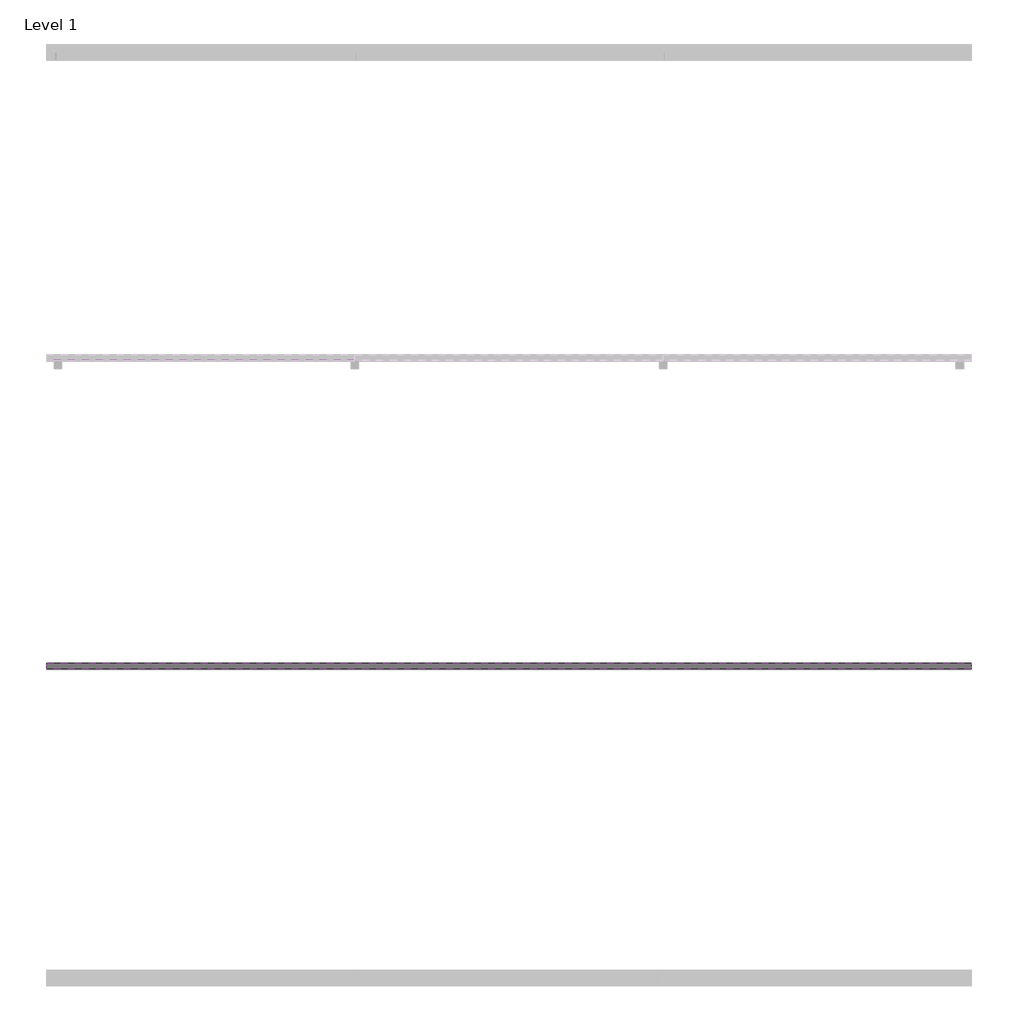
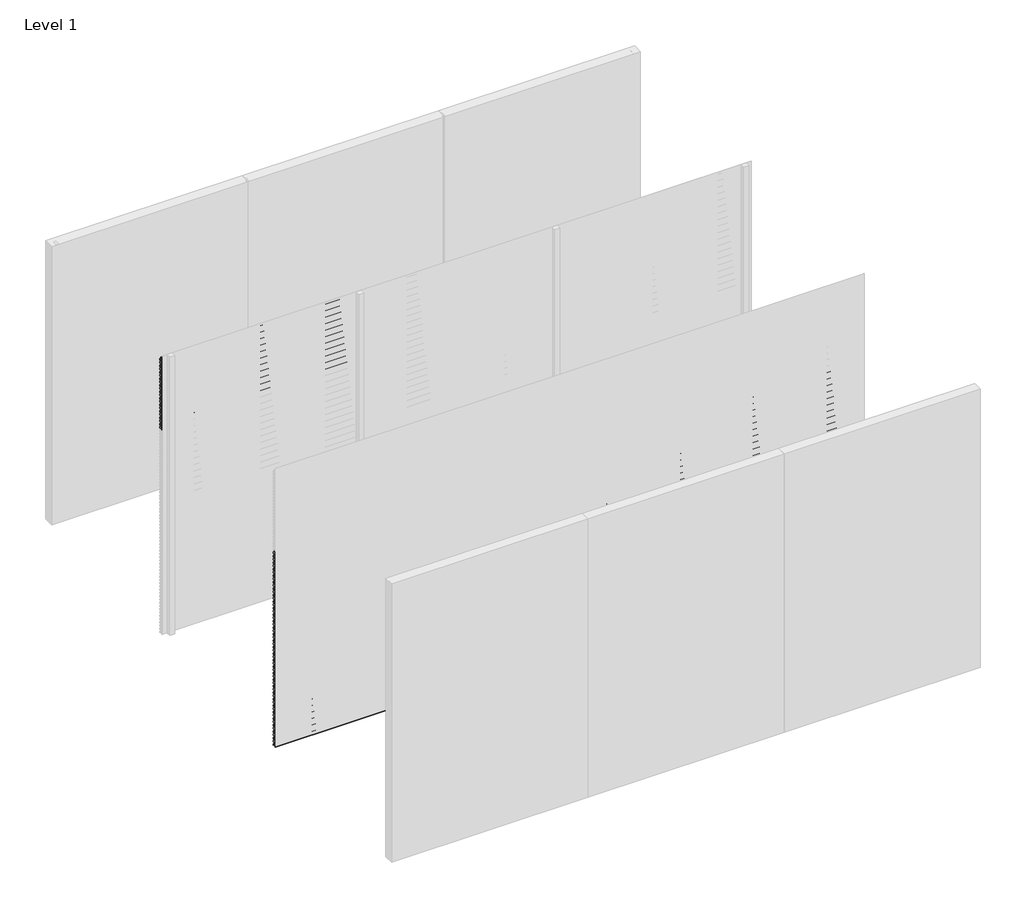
# One storey, part 6 of 17: 82 proxies.
"""IFC4 building model written with IfcOpenShell, lengths in millimetres."""

from ifc_helpers import new_model, si_unit, frame, origin, place, context, project, spatial, polyline, outline, extrude, element, save

model = new_model("IFC4")

# Units and contexts
model_context = context("Model", 3, world=origin())
ifc_project = project(units=[si_unit("LENGTHUNIT", "METRE", prefix="MILLI")], contexts=[model_context])

# Site, building, storey
site = spatial("IfcSite", under=ifc_project)
building = spatial("IfcBuilding", under=site)
storey = spatial("IfcBuildingStorey", under=building, Name="Level 1", Elevation=0.0)

# Proxies
placement = place(None, origin())
element("IfcBuildingElementProxy", 1, Name="Wall Sweeps", at=placement, inside=storey, context=model_context, shape_type="SweptSolid", body=[
    extrude(outline(polyline([(-11961.0, 2951.5), (-11961.0, 2936.5), (-11979.0, 2948.6411533), (-11997.0, 2936.5), (-11997.0, 2951.5), (-11980.0, 2962.9666448), (-11980.0, 2975.0), (-11978.0, 2975.0), (-11978.0, 2962.9666448), (-11961.0, 2951.5)])), frame((0.0, 0.0, 0.0), z_axis=(1.0, 0.0, 0.0), x_axis=(0.0, 1.0, 0.0)), (0.0, 0.0, 1.0), 2000.0),
])
element("IfcBuildingElementProxy", 2, Name="Wall Sweeps", at=placement, inside=storey, context=model_context, shape_type="SweptSolid", body=[
    extrude(outline(polyline([(-11961.0, 2916.5), (-11961.0, 2901.5), (-11979.0, 2913.6411533), (-11997.0, 2901.5), (-11997.0, 2916.5), (-11980.0, 2927.9666448), (-11980.0, 2940.0), (-11978.0, 2940.0), (-11978.0, 2927.9666448), (-11961.0, 2916.5)])), frame((0.0, 0.0, 0.0), z_axis=(1.0, 0.0, 0.0), x_axis=(0.0, 1.0, 0.0)), (0.0, 0.0, 1.0), 2000.0),
])
element("IfcBuildingElementProxy", 3, Name="Wall Sweeps", at=placement, inside=storey, context=model_context, shape_type="SweptSolid", body=[
    extrude(outline(polyline([(-11961.0, 2881.5), (-11961.0, 2866.5), (-11979.0, 2878.6411533), (-11997.0, 2866.5), (-11997.0, 2881.5), (-11980.0, 2892.9666448), (-11980.0, 2905.0), (-11978.0, 2905.0), (-11978.0, 2892.9666448), (-11961.0, 2881.5)])), frame((0.0, 0.0, 0.0), z_axis=(1.0, 0.0, 0.0), x_axis=(0.0, 1.0, 0.0)), (0.0, 0.0, 1.0), 2000.0),
])
element("IfcBuildingElementProxy", 4, Name="Wall Sweeps", at=placement, inside=storey, context=model_context, shape_type="SweptSolid", body=[
    extrude(outline(polyline([(-11961.0, 2846.5), (-11961.0, 2831.5), (-11979.0, 2843.6411533), (-11997.0, 2831.5), (-11997.0, 2846.5), (-11980.0, 2857.9666448), (-11980.0, 2870.0), (-11978.0, 2870.0), (-11978.0, 2857.9666448), (-11961.0, 2846.5)])), frame((0.0, 0.0, 0.0), z_axis=(1.0, 0.0, 0.0), x_axis=(0.0, 1.0, 0.0)), (0.0, 0.0, 1.0), 2000.0),
])
element("IfcBuildingElementProxy", 5, Name="Wall Sweeps", at=placement, inside=storey, context=model_context, shape_type="SweptSolid", body=[
    extrude(outline(polyline([(-11961.0, 2811.5), (-11961.0, 2796.5), (-11979.0, 2808.6411533), (-11997.0, 2796.5), (-11997.0, 2811.5), (-11980.0, 2822.9666448), (-11980.0, 2835.0), (-11978.0, 2835.0), (-11978.0, 2822.9666448), (-11961.0, 2811.5)])), frame((0.0, 0.0, 0.0), z_axis=(1.0, 0.0, 0.0), x_axis=(0.0, 1.0, 0.0)), (0.0, 0.0, 1.0), 2000.0),
])
element("IfcBuildingElementProxy", 6, Name="Wall Sweeps", at=placement, inside=storey, context=model_context, shape_type="SweptSolid", body=[
    extrude(outline(polyline([(-11961.0, 2776.5), (-11961.0, 2761.5), (-11979.0, 2773.6411533), (-11997.0, 2761.5), (-11997.0, 2776.5), (-11980.0, 2787.9666448), (-11980.0, 2800.0), (-11978.0, 2800.0), (-11978.0, 2787.9666448), (-11961.0, 2776.5)])), frame((0.0, 0.0, 0.0), z_axis=(1.0, 0.0, 0.0), x_axis=(0.0, 1.0, 0.0)), (0.0, 0.0, 1.0), 2000.0),
])
element("IfcBuildingElementProxy", 7, Name="Wall Sweeps", at=placement, inside=storey, context=model_context, shape_type="SweptSolid", body=[
    extrude(outline(polyline([(-11961.0, 2741.5), (-11961.0, 2726.5), (-11979.0, 2738.6411533), (-11997.0, 2726.5), (-11997.0, 2741.5), (-11980.0, 2752.9666448), (-11980.0, 2765.0), (-11978.0, 2765.0), (-11978.0, 2752.9666448), (-11961.0, 2741.5)])), frame((0.0, 0.0, 0.0), z_axis=(1.0, 0.0, 0.0), x_axis=(0.0, 1.0, 0.0)), (0.0, 0.0, 1.0), 2000.0),
])
element("IfcBuildingElementProxy", 8, Name="Wall Sweeps", at=placement, inside=storey, context=model_context, shape_type="SweptSolid", body=[
    extrude(outline(polyline([(-11961.0, 2706.5), (-11961.0, 2691.5), (-11979.0, 2703.6411533), (-11997.0, 2691.5), (-11997.0, 2706.5), (-11980.0, 2717.9666448), (-11980.0, 2730.0), (-11978.0, 2730.0), (-11978.0, 2717.9666448), (-11961.0, 2706.5)])), frame((0.0, 0.0, 0.0), z_axis=(1.0, 0.0, 0.0), x_axis=(0.0, 1.0, 0.0)), (0.0, 0.0, 1.0), 2000.0),
])
element("IfcBuildingElementProxy", 9, Name="Wall Sweeps", at=placement, inside=storey, context=model_context, shape_type="SweptSolid", body=[
    extrude(outline(polyline([(-11961.0, 2671.5), (-11961.0, 2656.5), (-11979.0, 2668.6411533), (-11997.0, 2656.5), (-11997.0, 2671.5), (-11980.0, 2682.9666448), (-11980.0, 2695.0), (-11978.0, 2695.0), (-11978.0, 2682.9666448), (-11961.0, 2671.5)])), frame((0.0, 0.0, 0.0), z_axis=(1.0, 0.0, 0.0), x_axis=(0.0, 1.0, 0.0)), (0.0, 0.0, 1.0), 2000.0),
])
element("IfcBuildingElementProxy", 10, Name="Wall Sweeps", at=placement, inside=storey, context=model_context, shape_type="SweptSolid", body=[
    extrude(outline(polyline([(-11961.0, 2636.5), (-11961.0, 2621.5), (-11979.0, 2633.6411533), (-11997.0, 2621.5), (-11997.0, 2636.5), (-11980.0, 2647.9666448), (-11980.0, 2660.0), (-11978.0, 2660.0), (-11978.0, 2647.9666448), (-11961.0, 2636.5)])), frame((0.0, 0.0, 0.0), z_axis=(1.0, 0.0, 0.0), x_axis=(0.0, 1.0, 0.0)), (0.0, 0.0, 1.0), 2000.0),
])
element("IfcBuildingElementProxy", 11, Name="Wall Sweeps", at=placement, inside=storey, context=model_context, shape_type="SweptSolid", body=[
    extrude(outline(polyline([(-11961.0, 2601.5), (-11961.0, 2586.5), (-11979.0, 2598.6411533), (-11997.0, 2586.5), (-11997.0, 2601.5), (-11980.0, 2612.9666448), (-11980.0, 2625.0), (-11978.0, 2625.0), (-11978.0, 2612.9666448), (-11961.0, 2601.5)])), frame((0.0, 0.0, 0.0), z_axis=(1.0, 0.0, 0.0), x_axis=(0.0, 1.0, 0.0)), (0.0, 0.0, 1.0), 2000.0),
])
element("IfcBuildingElementProxy", 12, Name="Wall Sweeps", at=placement, inside=storey, context=model_context, shape_type="SweptSolid", body=[
    extrude(outline(polyline([(-11961.0, 2566.5), (-11961.0, 2551.5), (-11979.0, 2563.6411533), (-11997.0, 2551.5), (-11997.0, 2566.5), (-11980.0, 2577.9666448), (-11980.0, 2590.0), (-11978.0, 2590.0), (-11978.0, 2577.9666448), (-11961.0, 2566.5)])), frame((0.0, 0.0, 0.0), z_axis=(1.0, 0.0, 0.0), x_axis=(0.0, 1.0, 0.0)), (0.0, 0.0, 1.0), 2000.0),
])
element("IfcBuildingElementProxy", 13, Name="Wall Sweeps", at=placement, inside=storey, context=model_context, shape_type="SweptSolid", body=[
    extrude(outline(polyline([(-11961.0, 2531.5), (-11961.0, 2516.5), (-11979.0, 2528.6411533), (-11997.0, 2516.5), (-11997.0, 2531.5), (-11980.0, 2542.9666448), (-11980.0, 2555.0), (-11978.0, 2555.0), (-11978.0, 2542.9666448), (-11961.0, 2531.5)])), frame((0.0, 0.0, 0.0), z_axis=(1.0, 0.0, 0.0), x_axis=(0.0, 1.0, 0.0)), (0.0, 0.0, 1.0), 2000.0),
])
element("IfcBuildingElementProxy", 14, Name="Wall Sweeps", at=placement, inside=storey, context=model_context, shape_type="SweptSolid", body=[
    extrude(outline(polyline([(-11961.0, 2496.5), (-11961.0, 2481.5), (-11979.0, 2493.6411533), (-11997.0, 2481.5), (-11997.0, 2496.5), (-11980.0, 2507.9666448), (-11980.0, 2520.0), (-11978.0, 2520.0), (-11978.0, 2507.9666448), (-11961.0, 2496.5)])), frame((0.0, 0.0, 0.0), z_axis=(1.0, 0.0, 0.0), x_axis=(0.0, 1.0, 0.0)), (0.0, 0.0, 1.0), 2000.0),
])
element("IfcBuildingElementProxy", 15, Name="Wall Sweeps", at=placement, inside=storey, context=model_context, shape_type="SweptSolid", body=[
    extrude(outline(polyline([(-11961.0, 2461.5), (-11961.0, 2446.5), (-11979.0, 2458.6411533), (-11997.0, 2446.5), (-11997.0, 2461.5), (-11980.0, 2472.9666448), (-11980.0, 2485.0), (-11978.0, 2485.0), (-11978.0, 2472.9666448), (-11961.0, 2461.5)])), frame((0.0, 0.0, 0.0), z_axis=(1.0, 0.0, 0.0), x_axis=(0.0, 1.0, 0.0)), (0.0, 0.0, 1.0), 2000.0),
])
element("IfcBuildingElementProxy", 16, Name="Wall Sweeps", at=placement, inside=storey, context=model_context, shape_type="SweptSolid", body=[
    extrude(outline(polyline([(-11961.0, 2426.5), (-11961.0, 2411.5), (-11979.0, 2423.6411533), (-11997.0, 2411.5), (-11997.0, 2426.5), (-11980.0, 2437.9666448), (-11980.0, 2450.0), (-11978.0, 2450.0), (-11978.0, 2437.9666448), (-11961.0, 2426.5)])), frame((0.0, 0.0, 0.0), z_axis=(1.0, 0.0, 0.0), x_axis=(0.0, 1.0, 0.0)), (0.0, 0.0, 1.0), 2000.0),
])
element("IfcBuildingElementProxy", 17, Name="Wall Sweeps", at=placement, inside=storey, context=model_context, shape_type="SweptSolid", body=[
    extrude(outline(polyline([(-11961.0, 2391.5), (-11961.0, 2376.5), (-11979.0, 2388.6411533), (-11997.0, 2376.5), (-11997.0, 2391.5), (-11980.0, 2402.9666448), (-11980.0, 2415.0), (-11978.0, 2415.0), (-11978.0, 2402.9666448), (-11961.0, 2391.5)])), frame((0.0, 0.0, 0.0), z_axis=(1.0, 0.0, 0.0), x_axis=(0.0, 1.0, 0.0)), (0.0, 0.0, 1.0), 2000.0),
])
element("IfcBuildingElementProxy", 18, Name="Wall Sweeps", at=placement, inside=storey, context=model_context, shape_type="SweptSolid", body=[
    extrude(outline(polyline([(-11961.0, 2356.5), (-11961.0, 2341.5), (-11979.0, 2353.6411533), (-11997.0, 2341.5), (-11997.0, 2356.5), (-11980.0, 2367.9666448), (-11980.0, 2380.0), (-11978.0, 2380.0), (-11978.0, 2367.9666448), (-11961.0, 2356.5)])), frame((0.0, 0.0, 0.0), z_axis=(1.0, 0.0, 0.0), x_axis=(0.0, 1.0, 0.0)), (0.0, 0.0, 1.0), 2000.0),
])
element("IfcBuildingElementProxy", 19, Name="Wall Sweeps", at=placement, inside=storey, context=model_context, shape_type="SweptSolid", body=[
    extrude(outline(polyline([(-11961.0, 2321.5), (-11961.0, 2306.5), (-11979.0, 2318.6411533), (-11997.0, 2306.5), (-11997.0, 2321.5), (-11980.0, 2332.9666448), (-11980.0, 2345.0), (-11978.0, 2345.0), (-11978.0, 2332.9666448), (-11961.0, 2321.5)])), frame((0.0, 0.0, 0.0), z_axis=(1.0, 0.0, 0.0), x_axis=(0.0, 1.0, 0.0)), (0.0, 0.0, 1.0), 2000.0),
])
element("IfcBuildingElementProxy", 20, Name="Wall Sweeps", at=placement, inside=storey, context=model_context, shape_type="SweptSolid", body=[
    extrude(outline(polyline([(-11961.0, 2286.5), (-11961.0, 2271.5), (-11979.0, 2283.6411533), (-11997.0, 2271.5), (-11997.0, 2286.5), (-11980.0, 2297.9666448), (-11980.0, 2310.0), (-11978.0, 2310.0), (-11978.0, 2297.9666448), (-11961.0, 2286.5)])), frame((0.0, 0.0, 0.0), z_axis=(1.0, 0.0, 0.0), x_axis=(0.0, 1.0, 0.0)), (0.0, 0.0, 1.0), 2000.0),
])
element("IfcBuildingElementProxy", 21, Name="Wall Sweeps", at=placement, inside=storey, context=model_context, shape_type="SweptSolid", body=[
    extrude(outline(polyline([(-11961.0, 2251.5), (-11961.0, 2236.5), (-11979.0, 2248.6411533), (-11997.0, 2236.5), (-11997.0, 2251.5), (-11980.0, 2262.9666448), (-11980.0, 2275.0), (-11978.0, 2275.0), (-11978.0, 2262.9666448), (-11961.0, 2251.5)])), frame((0.0, 0.0, 0.0), z_axis=(1.0, 0.0, 0.0), x_axis=(0.0, 1.0, 0.0)), (0.0, 0.0, 1.0), 2000.0),
])
element("IfcBuildingElementProxy", 22, Name="Wall Sweeps", at=placement, inside=storey, context=model_context, shape_type="SweptSolid", body=[
    extrude(outline(polyline([(-11961.0, 2216.5), (-11961.0, 2201.5), (-11979.0, 2213.6411533), (-11997.0, 2201.5), (-11997.0, 2216.5), (-11980.0, 2227.9666448), (-11980.0, 2240.0), (-11978.0, 2240.0), (-11978.0, 2227.9666448), (-11961.0, 2216.5)])), frame((0.0, 0.0, 0.0), z_axis=(1.0, 0.0, 0.0), x_axis=(0.0, 1.0, 0.0)), (0.0, 0.0, 1.0), 2000.0),
])
element("IfcBuildingElementProxy", 23, Name="Wall Sweeps", at=placement, inside=storey, context=model_context, shape_type="SweptSolid", body=[
    extrude(outline(polyline([(-13961.0, 2076.5), (-13961.0, 2061.5), (-13979.0, 2073.6411533), (-13997.0, 2061.5), (-13997.0, 2076.5), (-13980.0, 2087.9666448), (-13980.0, 2100.0), (-13978.0, 2100.0), (-13978.0, 2087.9666448), (-13961.0, 2076.5)])), frame((0.0, 0.0, 0.0), z_axis=(1.0, 0.0, 0.0), x_axis=(0.0, 1.0, 0.0)), (0.0, 0.0, 1.0), 6000.0),
])
element("IfcBuildingElementProxy", 24, Name="Wall Sweeps", at=placement, inside=storey, context=model_context, shape_type="SweptSolid", body=[
    extrude(outline(polyline([(-13961.0, 2041.5), (-13961.0, 2026.5), (-13979.0, 2038.6411533), (-13997.0, 2026.5), (-13997.0, 2041.5), (-13980.0, 2052.9666448), (-13980.0, 2065.0), (-13978.0, 2065.0), (-13978.0, 2052.9666448), (-13961.0, 2041.5)])), frame((0.0, 0.0, 0.0), z_axis=(1.0, 0.0, 0.0), x_axis=(0.0, 1.0, 0.0)), (0.0, 0.0, 1.0), 6000.0),
])
element("IfcBuildingElementProxy", 25, Name="Wall Sweeps", at=placement, inside=storey, context=model_context, shape_type="SweptSolid", body=[
    extrude(outline(polyline([(-13961.0, 2006.5), (-13961.0, 1991.5), (-13979.0, 2003.6411533), (-13997.0, 1991.5), (-13997.0, 2006.5), (-13980.0, 2017.9666448), (-13980.0, 2030.0), (-13978.0, 2030.0), (-13978.0, 2017.9666448), (-13961.0, 2006.5)])), frame((0.0, 0.0, 0.0), z_axis=(1.0, 0.0, 0.0), x_axis=(0.0, 1.0, 0.0)), (0.0, 0.0, 1.0), 6000.0),
])
element("IfcBuildingElementProxy", 26, Name="Wall Sweeps", at=placement, inside=storey, context=model_context, shape_type="SweptSolid", body=[
    extrude(outline(polyline([(-13961.0, 1971.5), (-13961.0, 1956.5), (-13979.0, 1968.6411533), (-13997.0, 1956.5), (-13997.0, 1971.5), (-13980.0, 1982.9666448), (-13980.0, 1995.0), (-13978.0, 1995.0), (-13978.0, 1982.9666448), (-13961.0, 1971.5)])), frame((0.0, 0.0, 0.0), z_axis=(1.0, 0.0, 0.0), x_axis=(0.0, 1.0, 0.0)), (0.0, 0.0, 1.0), 6000.0),
])
element("IfcBuildingElementProxy", 27, Name="Wall Sweeps", at=placement, inside=storey, context=model_context, shape_type="SweptSolid", body=[
    extrude(outline(polyline([(-13961.0, 1936.5), (-13961.0, 1921.5), (-13979.0, 1933.6411533), (-13997.0, 1921.5), (-13997.0, 1936.5), (-13980.0, 1947.9666448), (-13980.0, 1960.0), (-13978.0, 1960.0), (-13978.0, 1947.9666448), (-13961.0, 1936.5)])), frame((0.0, 0.0, 0.0), z_axis=(1.0, 0.0, 0.0), x_axis=(0.0, 1.0, 0.0)), (0.0, 0.0, 1.0), 6000.0),
])
element("IfcBuildingElementProxy", 28, Name="Wall Sweeps", at=placement, inside=storey, context=model_context, shape_type="SweptSolid", body=[
    extrude(outline(polyline([(-13961.0, 1901.5), (-13961.0, 1886.5), (-13979.0, 1898.6411533), (-13997.0, 1886.5), (-13997.0, 1901.5), (-13980.0, 1912.9666448), (-13980.0, 1925.0), (-13978.0, 1925.0), (-13978.0, 1912.9666448), (-13961.0, 1901.5)])), frame((0.0, 0.0, 0.0), z_axis=(1.0, 0.0, 0.0), x_axis=(0.0, 1.0, 0.0)), (0.0, 0.0, 1.0), 6000.0),
])
element("IfcBuildingElementProxy", 29, Name="Wall Sweeps", at=placement, inside=storey, context=model_context, shape_type="SweptSolid", body=[
    extrude(outline(polyline([(-13961.0, 1866.5), (-13961.0, 1851.5), (-13979.0, 1863.6411533), (-13997.0, 1851.5), (-13997.0, 1866.5), (-13980.0, 1877.9666448), (-13980.0, 1890.0), (-13978.0, 1890.0), (-13978.0, 1877.9666448), (-13961.0, 1866.5)])), frame((0.0, 0.0, 0.0), z_axis=(1.0, 0.0, 0.0), x_axis=(0.0, 1.0, 0.0)), (0.0, 0.0, 1.0), 6000.0),
])
element("IfcBuildingElementProxy", 30, Name="Wall Sweeps", at=placement, inside=storey, context=model_context, shape_type="SweptSolid", body=[
    extrude(outline(polyline([(-13961.0, 1831.5), (-13961.0, 1816.5), (-13979.0, 1828.6411533), (-13997.0, 1816.5), (-13997.0, 1831.5), (-13980.0, 1842.9666448), (-13980.0, 1855.0), (-13978.0, 1855.0), (-13978.0, 1842.9666448), (-13961.0, 1831.5)])), frame((0.0, 0.0, 0.0), z_axis=(1.0, 0.0, 0.0), x_axis=(0.0, 1.0, 0.0)), (0.0, 0.0, 1.0), 6000.0),
])
element("IfcBuildingElementProxy", 31, Name="Wall Sweeps", at=placement, inside=storey, context=model_context, shape_type="SweptSolid", body=[
    extrude(outline(polyline([(-13961.0, 1796.5), (-13961.0, 1781.5), (-13979.0, 1793.6411533), (-13997.0, 1781.5), (-13997.0, 1796.5), (-13980.0, 1807.9666448), (-13980.0, 1820.0), (-13978.0, 1820.0), (-13978.0, 1807.9666448), (-13961.0, 1796.5)])), frame((0.0, 0.0, 0.0), z_axis=(1.0, 0.0, 0.0), x_axis=(0.0, 1.0, 0.0)), (0.0, 0.0, 1.0), 6000.0),
])
element("IfcBuildingElementProxy", 32, Name="Wall Sweeps", at=placement, inside=storey, context=model_context, shape_type="SweptSolid", body=[
    extrude(outline(polyline([(-13961.0, 1761.5), (-13961.0, 1746.5), (-13979.0, 1758.6411533), (-13997.0, 1746.5), (-13997.0, 1761.5), (-13980.0, 1772.9666448), (-13980.0, 1785.0), (-13978.0, 1785.0), (-13978.0, 1772.9666448), (-13961.0, 1761.5)])), frame((0.0, 0.0, 0.0), z_axis=(1.0, 0.0, 0.0), x_axis=(0.0, 1.0, 0.0)), (0.0, 0.0, 1.0), 6000.0),
])
element("IfcBuildingElementProxy", 33, Name="Wall Sweeps", at=placement, inside=storey, context=model_context, shape_type="SweptSolid", body=[
    extrude(outline(polyline([(-13961.0, 1726.5), (-13961.0, 1711.5), (-13979.0, 1723.6411533), (-13997.0, 1711.5), (-13997.0, 1726.5), (-13980.0, 1737.9666448), (-13980.0, 1750.0), (-13978.0, 1750.0), (-13978.0, 1737.9666448), (-13961.0, 1726.5)])), frame((0.0, 0.0, 0.0), z_axis=(1.0, 0.0, 0.0), x_axis=(0.0, 1.0, 0.0)), (0.0, 0.0, 1.0), 6000.0),
])
element("IfcBuildingElementProxy", 34, Name="Wall Sweeps", at=placement, inside=storey, context=model_context, shape_type="SweptSolid", body=[
    extrude(outline(polyline([(-13961.0, 1691.5), (-13961.0, 1676.5), (-13979.0, 1688.6411533), (-13997.0, 1676.5), (-13997.0, 1691.5), (-13980.0, 1702.9666448), (-13980.0, 1715.0), (-13978.0, 1715.0), (-13978.0, 1702.9666448), (-13961.0, 1691.5)])), frame((0.0, 0.0, 0.0), z_axis=(1.0, 0.0, 0.0), x_axis=(0.0, 1.0, 0.0)), (0.0, 0.0, 1.0), 6000.0),
])
element("IfcBuildingElementProxy", 35, Name="Wall Sweeps", at=placement, inside=storey, context=model_context, shape_type="SweptSolid", body=[
    extrude(outline(polyline([(-13961.0, 1656.5), (-13961.0, 1641.5), (-13979.0, 1653.6411533), (-13997.0, 1641.5), (-13997.0, 1656.5), (-13980.0, 1667.9666448), (-13980.0, 1680.0), (-13978.0, 1680.0), (-13978.0, 1667.9666448), (-13961.0, 1656.5)])), frame((0.0, 0.0, 0.0), z_axis=(1.0, 0.0, 0.0), x_axis=(0.0, 1.0, 0.0)), (0.0, 0.0, 1.0), 6000.0),
])
element("IfcBuildingElementProxy", 36, Name="Wall Sweeps", at=placement, inside=storey, context=model_context, shape_type="SweptSolid", body=[
    extrude(outline(polyline([(-13961.0, 1621.5), (-13961.0, 1606.5), (-13979.0, 1618.6411533), (-13997.0, 1606.5), (-13997.0, 1621.5), (-13980.0, 1632.9666448), (-13980.0, 1645.0), (-13978.0, 1645.0), (-13978.0, 1632.9666448), (-13961.0, 1621.5)])), frame((0.0, 0.0, 0.0), z_axis=(1.0, 0.0, 0.0), x_axis=(0.0, 1.0, 0.0)), (0.0, 0.0, 1.0), 6000.0),
])
element("IfcBuildingElementProxy", 37, Name="Wall Sweeps", at=placement, inside=storey, context=model_context, shape_type="SweptSolid", body=[
    extrude(outline(polyline([(-13961.0, 1586.5), (-13961.0, 1571.5), (-13979.0, 1583.6411533), (-13997.0, 1571.5), (-13997.0, 1586.5), (-13980.0, 1597.9666448), (-13980.0, 1610.0), (-13978.0, 1610.0), (-13978.0, 1597.9666448), (-13961.0, 1586.5)])), frame((0.0, 0.0, 0.0), z_axis=(1.0, 0.0, 0.0), x_axis=(0.0, 1.0, 0.0)), (0.0, 0.0, 1.0), 6000.0),
])
element("IfcBuildingElementProxy", 38, Name="Wall Sweeps", at=placement, inside=storey, context=model_context, shape_type="SweptSolid", body=[
    extrude(outline(polyline([(-13961.0, 1551.5), (-13961.0, 1536.5), (-13979.0, 1548.6411533), (-13997.0, 1536.5), (-13997.0, 1551.5), (-13980.0, 1562.9666448), (-13980.0, 1575.0), (-13978.0, 1575.0), (-13978.0, 1562.9666448), (-13961.0, 1551.5)])), frame((0.0, 0.0, 0.0), z_axis=(1.0, 0.0, 0.0), x_axis=(0.0, 1.0, 0.0)), (0.0, 0.0, 1.0), 6000.0),
])
element("IfcBuildingElementProxy", 39, Name="Wall Sweeps", at=placement, inside=storey, context=model_context, shape_type="SweptSolid", body=[
    extrude(outline(polyline([(-13961.0, 1516.5), (-13961.0, 1501.5), (-13979.0, 1513.6411533), (-13997.0, 1501.5), (-13997.0, 1516.5), (-13980.0, 1527.9666448), (-13980.0, 1540.0), (-13978.0, 1540.0), (-13978.0, 1527.9666448), (-13961.0, 1516.5)])), frame((0.0, 0.0, 0.0), z_axis=(1.0, 0.0, 0.0), x_axis=(0.0, 1.0, 0.0)), (0.0, 0.0, 1.0), 6000.0),
])
element("IfcBuildingElementProxy", 40, Name="Wall Sweeps", at=placement, inside=storey, context=model_context, shape_type="SweptSolid", body=[
    extrude(outline(polyline([(-13961.0, 1481.5), (-13961.0, 1466.5), (-13979.0, 1478.6411533), (-13997.0, 1466.5), (-13997.0, 1481.5), (-13980.0, 1492.9666448), (-13980.0, 1505.0), (-13978.0, 1505.0), (-13978.0, 1492.9666448), (-13961.0, 1481.5)])), frame((0.0, 0.0, 0.0), z_axis=(1.0, 0.0, 0.0), x_axis=(0.0, 1.0, 0.0)), (0.0, 0.0, 1.0), 6000.0),
])
element("IfcBuildingElementProxy", 41, Name="Wall Sweeps", at=placement, inside=storey, context=model_context, shape_type="SweptSolid", body=[
    extrude(outline(polyline([(-13961.0, 1446.5), (-13961.0, 1431.5), (-13979.0, 1443.6411533), (-13997.0, 1431.5), (-13997.0, 1446.5), (-13980.0, 1457.9666448), (-13980.0, 1470.0), (-13978.0, 1470.0), (-13978.0, 1457.9666448), (-13961.0, 1446.5)])), frame((0.0, 0.0, 0.0), z_axis=(1.0, 0.0, 0.0), x_axis=(0.0, 1.0, 0.0)), (0.0, 0.0, 1.0), 6000.0),
])
element("IfcBuildingElementProxy", 42, Name="Wall Sweeps", at=placement, inside=storey, context=model_context, shape_type="SweptSolid", body=[
    extrude(outline(polyline([(-13961.0, 1411.5), (-13961.0, 1396.5), (-13979.0, 1408.6411533), (-13997.0, 1396.5), (-13997.0, 1411.5), (-13980.0, 1422.9666448), (-13980.0, 1435.0), (-13978.0, 1435.0), (-13978.0, 1422.9666448), (-13961.0, 1411.5)])), frame((0.0, 0.0, 0.0), z_axis=(1.0, 0.0, 0.0), x_axis=(0.0, 1.0, 0.0)), (0.0, 0.0, 1.0), 6000.0),
])
element("IfcBuildingElementProxy", 43, Name="Wall Sweeps", at=placement, inside=storey, context=model_context, shape_type="SweptSolid", body=[
    extrude(outline(polyline([(-13961.0, 1376.5), (-13961.0, 1361.5), (-13979.0, 1373.6411533), (-13997.0, 1361.5), (-13997.0, 1376.5), (-13980.0, 1387.9666448), (-13980.0, 1400.0), (-13978.0, 1400.0), (-13978.0, 1387.9666448), (-13961.0, 1376.5)])), frame((0.0, 0.0, 0.0), z_axis=(1.0, 0.0, 0.0), x_axis=(0.0, 1.0, 0.0)), (0.0, 0.0, 1.0), 6000.0),
])
element("IfcBuildingElementProxy", 44, Name="Wall Sweeps", at=placement, inside=storey, context=model_context, shape_type="SweptSolid", body=[
    extrude(outline(polyline([(-13961.0, 1341.5), (-13961.0, 1326.5), (-13979.0, 1338.6411533), (-13997.0, 1326.5), (-13997.0, 1341.5), (-13980.0, 1352.9666448), (-13980.0, 1365.0), (-13978.0, 1365.0), (-13978.0, 1352.9666448), (-13961.0, 1341.5)])), frame((0.0, 0.0, 0.0), z_axis=(1.0, 0.0, 0.0), x_axis=(0.0, 1.0, 0.0)), (0.0, 0.0, 1.0), 6000.0),
])
element("IfcBuildingElementProxy", 45, Name="Wall Sweeps", at=placement, inside=storey, context=model_context, shape_type="SweptSolid", body=[
    extrude(outline(polyline([(-13961.0, 1306.5), (-13961.0, 1291.5), (-13979.0, 1303.6411533), (-13997.0, 1291.5), (-13997.0, 1306.5), (-13980.0, 1317.9666448), (-13980.0, 1330.0), (-13978.0, 1330.0), (-13978.0, 1317.9666448), (-13961.0, 1306.5)])), frame((0.0, 0.0, 0.0), z_axis=(1.0, 0.0, 0.0), x_axis=(0.0, 1.0, 0.0)), (0.0, 0.0, 1.0), 6000.0),
])
element("IfcBuildingElementProxy", 46, Name="Wall Sweeps", at=placement, inside=storey, context=model_context, shape_type="SweptSolid", body=[
    extrude(outline(polyline([(-13961.0, 1271.5), (-13961.0, 1256.5), (-13979.0, 1268.6411533), (-13997.0, 1256.5), (-13997.0, 1271.5), (-13980.0, 1282.9666448), (-13980.0, 1295.0), (-13978.0, 1295.0), (-13978.0, 1282.9666448), (-13961.0, 1271.5)])), frame((0.0, 0.0, 0.0), z_axis=(1.0, 0.0, 0.0), x_axis=(0.0, 1.0, 0.0)), (0.0, 0.0, 1.0), 6000.0),
])
element("IfcBuildingElementProxy", 47, Name="Wall Sweeps", at=placement, inside=storey, context=model_context, shape_type="SweptSolid", body=[
    extrude(outline(polyline([(-13961.0, 1236.5), (-13961.0, 1221.5), (-13979.0, 1233.6411533), (-13997.0, 1221.5), (-13997.0, 1236.5), (-13980.0, 1247.9666448), (-13980.0, 1260.0), (-13978.0, 1260.0), (-13978.0, 1247.9666448), (-13961.0, 1236.5)])), frame((0.0, 0.0, 0.0), z_axis=(1.0, 0.0, 0.0), x_axis=(0.0, 1.0, 0.0)), (0.0, 0.0, 1.0), 6000.0),
])
element("IfcBuildingElementProxy", 48, Name="Wall Sweeps", at=placement, inside=storey, context=model_context, shape_type="SweptSolid", body=[
    extrude(outline(polyline([(-13961.0, 1201.5), (-13961.0, 1186.5), (-13979.0, 1198.6411533), (-13997.0, 1186.5), (-13997.0, 1201.5), (-13980.0, 1212.9666448), (-13980.0, 1225.0), (-13978.0, 1225.0), (-13978.0, 1212.9666448), (-13961.0, 1201.5)])), frame((0.0, 0.0, 0.0), z_axis=(1.0, 0.0, 0.0), x_axis=(0.0, 1.0, 0.0)), (0.0, 0.0, 1.0), 6000.0),
])
element("IfcBuildingElementProxy", 49, Name="Wall Sweeps", at=placement, inside=storey, context=model_context, shape_type="SweptSolid", body=[
    extrude(outline(polyline([(-13961.0, 1166.5), (-13961.0, 1151.5), (-13979.0, 1163.6411533), (-13997.0, 1151.5), (-13997.0, 1166.5), (-13980.0, 1177.9666448), (-13980.0, 1190.0), (-13978.0, 1190.0), (-13978.0, 1177.9666448), (-13961.0, 1166.5)])), frame((0.0, 0.0, 0.0), z_axis=(1.0, 0.0, 0.0), x_axis=(0.0, 1.0, 0.0)), (0.0, 0.0, 1.0), 6000.0),
])
element("IfcBuildingElementProxy", 50, Name="Wall Sweeps", at=placement, inside=storey, context=model_context, shape_type="SweptSolid", body=[
    extrude(outline(polyline([(-13961.0, 1131.5), (-13961.0, 1116.5), (-13979.0, 1128.6411533), (-13997.0, 1116.5), (-13997.0, 1131.5), (-13980.0, 1142.9666448), (-13980.0, 1155.0), (-13978.0, 1155.0), (-13978.0, 1142.9666448), (-13961.0, 1131.5)])), frame((0.0, 0.0, 0.0), z_axis=(1.0, 0.0, 0.0), x_axis=(0.0, 1.0, 0.0)), (0.0, 0.0, 1.0), 6000.0),
])
element("IfcBuildingElementProxy", 51, Name="Wall Sweeps", at=placement, inside=storey, context=model_context, shape_type="SweptSolid", body=[
    extrude(outline(polyline([(-13961.0, 1096.5), (-13961.0, 1081.5), (-13979.0, 1093.6411533), (-13997.0, 1081.5), (-13997.0, 1096.5), (-13980.0, 1107.9666448), (-13980.0, 1120.0), (-13978.0, 1120.0), (-13978.0, 1107.9666448), (-13961.0, 1096.5)])), frame((0.0, 0.0, 0.0), z_axis=(1.0, 0.0, 0.0), x_axis=(0.0, 1.0, 0.0)), (0.0, 0.0, 1.0), 6000.0),
])
element("IfcBuildingElementProxy", 52, Name="Wall Sweeps", at=placement, inside=storey, context=model_context, shape_type="SweptSolid", body=[
    extrude(outline(polyline([(-13961.0, 1061.5), (-13961.0, 1046.5), (-13979.0, 1058.6411533), (-13997.0, 1046.5), (-13997.0, 1061.5), (-13980.0, 1072.9666448), (-13980.0, 1085.0), (-13978.0, 1085.0), (-13978.0, 1072.9666448), (-13961.0, 1061.5)])), frame((0.0, 0.0, 0.0), z_axis=(1.0, 0.0, 0.0), x_axis=(0.0, 1.0, 0.0)), (0.0, 0.0, 1.0), 6000.0),
])
element("IfcBuildingElementProxy", 53, Name="Wall Sweeps", at=placement, inside=storey, context=model_context, shape_type="SweptSolid", body=[
    extrude(outline(polyline([(-13961.0, 1026.5), (-13961.0, 1011.5), (-13979.0, 1023.6411533), (-13997.0, 1011.5), (-13997.0, 1026.5), (-13980.0, 1037.9666448), (-13980.0, 1050.0), (-13978.0, 1050.0), (-13978.0, 1037.9666448), (-13961.0, 1026.5)])), frame((0.0, 0.0, 0.0), z_axis=(1.0, 0.0, 0.0), x_axis=(0.0, 1.0, 0.0)), (0.0, 0.0, 1.0), 6000.0),
])
element("IfcBuildingElementProxy", 54, Name="Wall Sweeps", at=placement, inside=storey, context=model_context, shape_type="SweptSolid", body=[
    extrude(outline(polyline([(-13961.0, 991.5), (-13961.0, 976.5), (-13979.0, 988.6411533), (-13997.0, 976.5), (-13997.0, 991.5), (-13980.0, 1002.9666448), (-13980.0, 1015.0), (-13978.0, 1015.0), (-13978.0, 1002.9666448), (-13961.0, 991.5)])), frame((0.0, 0.0, 0.0), z_axis=(1.0, 0.0, 0.0), x_axis=(0.0, 1.0, 0.0)), (0.0, 0.0, 1.0), 6000.0),
])
element("IfcBuildingElementProxy", 55, Name="Wall Sweeps", at=placement, inside=storey, context=model_context, shape_type="SweptSolid", body=[
    extrude(outline(polyline([(-13961.0, 956.5), (-13961.0, 941.5), (-13979.0, 953.6411533), (-13997.0, 941.5), (-13997.0, 956.5), (-13980.0, 967.9666448), (-13980.0, 980.0), (-13978.0, 980.0), (-13978.0, 967.9666448), (-13961.0, 956.5)])), frame((0.0, 0.0, 0.0), z_axis=(1.0, 0.0, 0.0), x_axis=(0.0, 1.0, 0.0)), (0.0, 0.0, 1.0), 6000.0),
])
element("IfcBuildingElementProxy", 56, Name="Wall Sweeps", at=placement, inside=storey, context=model_context, shape_type="SweptSolid", body=[
    extrude(outline(polyline([(-13961.0, 921.5), (-13961.0, 906.5), (-13979.0, 918.6411533), (-13997.0, 906.5), (-13997.0, 921.5), (-13980.0, 932.9666448), (-13980.0, 945.0), (-13978.0, 945.0), (-13978.0, 932.9666448), (-13961.0, 921.5)])), frame((0.0, 0.0, 0.0), z_axis=(1.0, 0.0, 0.0), x_axis=(0.0, 1.0, 0.0)), (0.0, 0.0, 1.0), 6000.0),
])
element("IfcBuildingElementProxy", 57, Name="Wall Sweeps", at=placement, inside=storey, context=model_context, shape_type="SweptSolid", body=[
    extrude(outline(polyline([(-13961.0, 886.5), (-13961.0, 871.5), (-13979.0, 883.6411533), (-13997.0, 871.5), (-13997.0, 886.5), (-13980.0, 897.9666448), (-13980.0, 910.0), (-13978.0, 910.0), (-13978.0, 897.9666448), (-13961.0, 886.5)])), frame((0.0, 0.0, 0.0), z_axis=(1.0, 0.0, 0.0), x_axis=(0.0, 1.0, 0.0)), (0.0, 0.0, 1.0), 6000.0),
])
element("IfcBuildingElementProxy", 58, Name="Wall Sweeps", at=placement, inside=storey, context=model_context, shape_type="SweptSolid", body=[
    extrude(outline(polyline([(-13961.0, 851.5), (-13961.0, 836.5), (-13979.0, 848.6411533), (-13997.0, 836.5), (-13997.0, 851.5), (-13980.0, 862.9666448), (-13980.0, 875.0), (-13978.0, 875.0), (-13978.0, 862.9666448), (-13961.0, 851.5)])), frame((0.0, 0.0, 0.0), z_axis=(1.0, 0.0, 0.0), x_axis=(0.0, 1.0, 0.0)), (0.0, 0.0, 1.0), 6000.0),
])
element("IfcBuildingElementProxy", 59, Name="Wall Sweeps", at=placement, inside=storey, context=model_context, shape_type="SweptSolid", body=[
    extrude(outline(polyline([(-13961.0, 816.5), (-13961.0, 801.5), (-13979.0, 813.6411533), (-13997.0, 801.5), (-13997.0, 816.5), (-13980.0, 827.9666448), (-13980.0, 840.0), (-13978.0, 840.0), (-13978.0, 827.9666448), (-13961.0, 816.5)])), frame((0.0, 0.0, 0.0), z_axis=(1.0, 0.0, 0.0), x_axis=(0.0, 1.0, 0.0)), (0.0, 0.0, 1.0), 6000.0),
])
element("IfcBuildingElementProxy", 60, Name="Wall Sweeps", at=placement, inside=storey, context=model_context, shape_type="SweptSolid", body=[
    extrude(outline(polyline([(-13961.0, 781.5), (-13961.0, 766.5), (-13979.0, 778.6411533), (-13997.0, 766.5), (-13997.0, 781.5), (-13980.0, 792.9666448), (-13980.0, 805.0), (-13978.0, 805.0), (-13978.0, 792.9666448), (-13961.0, 781.5)])), frame((0.0, 0.0, 0.0), z_axis=(1.0, 0.0, 0.0), x_axis=(0.0, 1.0, 0.0)), (0.0, 0.0, 1.0), 6000.0),
])
element("IfcBuildingElementProxy", 61, Name="Wall Sweeps", at=placement, inside=storey, context=model_context, shape_type="SweptSolid", body=[
    extrude(outline(polyline([(-13961.0, 746.5), (-13961.0, 731.5), (-13979.0, 743.6411533), (-13997.0, 731.5), (-13997.0, 746.5), (-13980.0, 757.9666448), (-13980.0, 770.0), (-13978.0, 770.0), (-13978.0, 757.9666448), (-13961.0, 746.5)])), frame((0.0, 0.0, 0.0), z_axis=(1.0, 0.0, 0.0), x_axis=(0.0, 1.0, 0.0)), (0.0, 0.0, 1.0), 6000.0),
])
element("IfcBuildingElementProxy", 62, Name="Wall Sweeps", at=placement, inside=storey, context=model_context, shape_type="SweptSolid", body=[
    extrude(outline(polyline([(-13961.0, 711.5), (-13961.0, 696.5), (-13979.0, 708.6411533), (-13997.0, 696.5), (-13997.0, 711.5), (-13980.0, 722.9666448), (-13980.0, 735.0), (-13978.0, 735.0), (-13978.0, 722.9666448), (-13961.0, 711.5)])), frame((0.0, 0.0, 0.0), z_axis=(1.0, 0.0, 0.0), x_axis=(0.0, 1.0, 0.0)), (0.0, 0.0, 1.0), 6000.0),
])
element("IfcBuildingElementProxy", 63, Name="Wall Sweeps", at=placement, inside=storey, context=model_context, shape_type="SweptSolid", body=[
    extrude(outline(polyline([(-13961.0, 676.5), (-13961.0, 661.5), (-13979.0, 673.6411533), (-13997.0, 661.5), (-13997.0, 676.5), (-13980.0, 687.9666448), (-13980.0, 700.0), (-13978.0, 700.0), (-13978.0, 687.9666448), (-13961.0, 676.5)])), frame((0.0, 0.0, 0.0), z_axis=(1.0, 0.0, 0.0), x_axis=(0.0, 1.0, 0.0)), (0.0, 0.0, 1.0), 6000.0),
])
element("IfcBuildingElementProxy", 64, Name="Wall Sweeps", at=placement, inside=storey, context=model_context, shape_type="SweptSolid", body=[
    extrude(outline(polyline([(-13961.0, 641.5), (-13961.0, 626.5), (-13979.0, 638.6411533), (-13997.0, 626.5), (-13997.0, 641.5), (-13980.0, 652.9666448), (-13980.0, 665.0), (-13978.0, 665.0), (-13978.0, 652.9666448), (-13961.0, 641.5)])), frame((0.0, 0.0, 0.0), z_axis=(1.0, 0.0, 0.0), x_axis=(0.0, 1.0, 0.0)), (0.0, 0.0, 1.0), 6000.0),
])
element("IfcBuildingElementProxy", 65, Name="Wall Sweeps", at=placement, inside=storey, context=model_context, shape_type="SweptSolid", body=[
    extrude(outline(polyline([(-13961.0, 606.5), (-13961.0, 591.5), (-13979.0, 603.6411533), (-13997.0, 591.5), (-13997.0, 606.5), (-13980.0, 617.9666448), (-13980.0, 630.0), (-13978.0, 630.0), (-13978.0, 617.9666448), (-13961.0, 606.5)])), frame((0.0, 0.0, 0.0), z_axis=(1.0, 0.0, 0.0), x_axis=(0.0, 1.0, 0.0)), (0.0, 0.0, 1.0), 6000.0),
])
element("IfcBuildingElementProxy", 66, Name="Wall Sweeps", at=placement, inside=storey, context=model_context, shape_type="SweptSolid", body=[
    extrude(outline(polyline([(-13961.0, 571.5), (-13961.0, 556.5), (-13979.0, 568.6411533), (-13997.0, 556.5), (-13997.0, 571.5), (-13980.0, 582.9666448), (-13980.0, 595.0), (-13978.0, 595.0), (-13978.0, 582.9666448), (-13961.0, 571.5)])), frame((0.0, 0.0, 0.0), z_axis=(1.0, 0.0, 0.0), x_axis=(0.0, 1.0, 0.0)), (0.0, 0.0, 1.0), 6000.0),
])
element("IfcBuildingElementProxy", 67, Name="Wall Sweeps", at=placement, inside=storey, context=model_context, shape_type="SweptSolid", body=[
    extrude(outline(polyline([(-13961.0, 536.5), (-13961.0, 521.5), (-13979.0, 533.6411533), (-13997.0, 521.5), (-13997.0, 536.5), (-13980.0, 547.9666448), (-13980.0, 560.0), (-13978.0, 560.0), (-13978.0, 547.9666448), (-13961.0, 536.5)])), frame((0.0, 0.0, 0.0), z_axis=(1.0, 0.0, 0.0), x_axis=(0.0, 1.0, 0.0)), (0.0, 0.0, 1.0), 6000.0),
])
element("IfcBuildingElementProxy", 68, Name="Wall Sweeps", at=placement, inside=storey, context=model_context, shape_type="SweptSolid", body=[
    extrude(outline(polyline([(-13961.0, 501.5), (-13961.0, 486.5), (-13979.0, 498.6411533), (-13997.0, 486.5), (-13997.0, 501.5), (-13980.0, 512.9666448), (-13980.0, 525.0), (-13978.0, 525.0), (-13978.0, 512.9666448), (-13961.0, 501.5)])), frame((0.0, 0.0, 0.0), z_axis=(1.0, 0.0, 0.0), x_axis=(0.0, 1.0, 0.0)), (0.0, 0.0, 1.0), 6000.0),
])
element("IfcBuildingElementProxy", 69, Name="Wall Sweeps", at=placement, inside=storey, context=model_context, shape_type="SweptSolid", body=[
    extrude(outline(polyline([(-13961.0, 466.5), (-13961.0, 451.5), (-13979.0, 463.6411533), (-13997.0, 451.5), (-13997.0, 466.5), (-13980.0, 477.9666448), (-13980.0, 490.0), (-13978.0, 490.0), (-13978.0, 477.9666448), (-13961.0, 466.5)])), frame((0.0, 0.0, 0.0), z_axis=(1.0, 0.0, 0.0), x_axis=(0.0, 1.0, 0.0)), (0.0, 0.0, 1.0), 6000.0),
])
element("IfcBuildingElementProxy", 70, Name="Wall Sweeps", at=placement, inside=storey, context=model_context, shape_type="SweptSolid", body=[
    extrude(outline(polyline([(-13961.0, 431.5), (-13961.0, 416.5), (-13979.0, 428.6411533), (-13997.0, 416.5), (-13997.0, 431.5), (-13980.0, 442.9666448), (-13980.0, 455.0), (-13978.0, 455.0), (-13978.0, 442.9666448), (-13961.0, 431.5)])), frame((0.0, 0.0, 0.0), z_axis=(1.0, 0.0, 0.0), x_axis=(0.0, 1.0, 0.0)), (0.0, 0.0, 1.0), 6000.0),
])
element("IfcBuildingElementProxy", 71, Name="Wall Sweeps", at=placement, inside=storey, context=model_context, shape_type="SweptSolid", body=[
    extrude(outline(polyline([(-13961.0, 396.5), (-13961.0, 381.5), (-13979.0, 393.6411533), (-13997.0, 381.5), (-13997.0, 396.5), (-13980.0, 407.9666448), (-13980.0, 420.0), (-13978.0, 420.0), (-13978.0, 407.9666448), (-13961.0, 396.5)])), frame((0.0, 0.0, 0.0), z_axis=(1.0, 0.0, 0.0), x_axis=(0.0, 1.0, 0.0)), (0.0, 0.0, 1.0), 6000.0),
])
element("IfcBuildingElementProxy", 72, Name="Wall Sweeps", at=placement, inside=storey, context=model_context, shape_type="SweptSolid", body=[
    extrude(outline(polyline([(-13961.0, 361.5), (-13961.0, 346.5), (-13979.0, 358.6411533), (-13997.0, 346.5), (-13997.0, 361.5), (-13980.0, 372.9666448), (-13980.0, 385.0), (-13978.0, 385.0), (-13978.0, 372.9666448), (-13961.0, 361.5)])), frame((0.0, 0.0, 0.0), z_axis=(1.0, 0.0, 0.0), x_axis=(0.0, 1.0, 0.0)), (0.0, 0.0, 1.0), 6000.0),
])
element("IfcBuildingElementProxy", 73, Name="Wall Sweeps", at=placement, inside=storey, context=model_context, shape_type="SweptSolid", body=[
    extrude(outline(polyline([(-13961.0, 326.5), (-13961.0, 311.5), (-13979.0, 323.6411533), (-13997.0, 311.5), (-13997.0, 326.5), (-13980.0, 337.9666448), (-13980.0, 350.0), (-13978.0, 350.0), (-13978.0, 337.9666448), (-13961.0, 326.5)])), frame((0.0, 0.0, 0.0), z_axis=(1.0, 0.0, 0.0), x_axis=(0.0, 1.0, 0.0)), (0.0, 0.0, 1.0), 6000.0),
])
element("IfcBuildingElementProxy", 74, Name="Wall Sweeps", at=placement, inside=storey, context=model_context, shape_type="SweptSolid", body=[
    extrude(outline(polyline([(-13961.0, 291.5), (-13961.0, 276.5), (-13979.0, 288.6411533), (-13997.0, 276.5), (-13997.0, 291.5), (-13980.0, 302.9666448), (-13980.0, 315.0), (-13978.0, 315.0), (-13978.0, 302.9666448), (-13961.0, 291.5)])), frame((0.0, 0.0, 0.0), z_axis=(1.0, 0.0, 0.0), x_axis=(0.0, 1.0, 0.0)), (0.0, 0.0, 1.0), 6000.0),
])
element("IfcBuildingElementProxy", 75, Name="Wall Sweeps", at=placement, inside=storey, context=model_context, shape_type="SweptSolid", body=[
    extrude(outline(polyline([(-13961.0, 256.5), (-13961.0, 241.5), (-13979.0, 253.6411533), (-13997.0, 241.5), (-13997.0, 256.5), (-13980.0, 267.9666448), (-13980.0, 280.0), (-13978.0, 280.0), (-13978.0, 267.9666448), (-13961.0, 256.5)])), frame((0.0, 0.0, 0.0), z_axis=(1.0, 0.0, 0.0), x_axis=(0.0, 1.0, 0.0)), (0.0, 0.0, 1.0), 6000.0),
])
element("IfcBuildingElementProxy", 76, Name="Wall Sweeps", at=placement, inside=storey, context=model_context, shape_type="SweptSolid", body=[
    extrude(outline(polyline([(-13961.0, 221.5), (-13961.0, 206.5), (-13979.0, 218.6411533), (-13997.0, 206.5), (-13997.0, 221.5), (-13980.0, 232.9666448), (-13980.0, 245.0), (-13978.0, 245.0), (-13978.0, 232.9666448), (-13961.0, 221.5)])), frame((0.0, 0.0, 0.0), z_axis=(1.0, 0.0, 0.0), x_axis=(0.0, 1.0, 0.0)), (0.0, 0.0, 1.0), 6000.0),
])
element("IfcBuildingElementProxy", 77, Name="Wall Sweeps", at=placement, inside=storey, context=model_context, shape_type="SweptSolid", body=[
    extrude(outline(polyline([(-13961.0, 186.5), (-13961.0, 171.5), (-13979.0, 183.6411533), (-13997.0, 171.5), (-13997.0, 186.5), (-13980.0, 197.9666448), (-13980.0, 210.0), (-13978.0, 210.0), (-13978.0, 197.9666448), (-13961.0, 186.5)])), frame((0.0, 0.0, 0.0), z_axis=(1.0, 0.0, 0.0), x_axis=(0.0, 1.0, 0.0)), (0.0, 0.0, 1.0), 6000.0),
])
element("IfcBuildingElementProxy", 78, Name="Wall Sweeps", at=placement, inside=storey, context=model_context, shape_type="SweptSolid", body=[
    extrude(outline(polyline([(-13961.0, 151.5), (-13961.0, 136.5), (-13979.0, 148.6411533), (-13997.0, 136.5), (-13997.0, 151.5), (-13980.0, 162.9666448), (-13980.0, 175.0), (-13978.0, 175.0), (-13978.0, 162.9666448), (-13961.0, 151.5)])), frame((0.0, 0.0, 0.0), z_axis=(1.0, 0.0, 0.0), x_axis=(0.0, 1.0, 0.0)), (0.0, 0.0, 1.0), 6000.0),
])
element("IfcBuildingElementProxy", 79, Name="Wall Sweeps", at=placement, inside=storey, context=model_context, shape_type="SweptSolid", body=[
    extrude(outline(polyline([(-13961.0, 116.5), (-13961.0, 101.5), (-13979.0, 113.6411533), (-13997.0, 101.5), (-13997.0, 116.5), (-13980.0, 127.9666448), (-13980.0, 140.0), (-13978.0, 140.0), (-13978.0, 127.9666448), (-13961.0, 116.5)])), frame((0.0, 0.0, 0.0), z_axis=(1.0, 0.0, 0.0), x_axis=(0.0, 1.0, 0.0)), (0.0, 0.0, 1.0), 6000.0),
])
element("IfcBuildingElementProxy", 80, Name="Wall Sweeps", at=placement, inside=storey, context=model_context, shape_type="SweptSolid", body=[
    extrude(outline(polyline([(-13961.0, 81.5), (-13961.0, 66.5), (-13979.0, 78.6411533), (-13997.0, 66.5), (-13997.0, 81.5), (-13980.0, 92.9666448), (-13980.0, 105.0), (-13978.0, 105.0), (-13978.0, 92.9666448), (-13961.0, 81.5)])), frame((0.0, 0.0, 0.0), z_axis=(1.0, 0.0, 0.0), x_axis=(0.0, 1.0, 0.0)), (0.0, 0.0, 1.0), 6000.0),
])
element("IfcBuildingElementProxy", 81, Name="Wall Sweeps", at=placement, inside=storey, context=model_context, shape_type="SweptSolid", body=[
    extrude(outline(polyline([(-13961.0, 46.5), (-13961.0, 31.5), (-13979.0, 43.6411533), (-13997.0, 31.5), (-13997.0, 46.5), (-13980.0, 57.9666448), (-13980.0, 70.0), (-13978.0, 70.0), (-13978.0, 57.9666448), (-13961.0, 46.5)])), frame((0.0, 0.0, 0.0), z_axis=(1.0, 0.0, 0.0), x_axis=(0.0, 1.0, 0.0)), (0.0, 0.0, 1.0), 6000.0),
])
element("IfcBuildingElementProxy", 82, Name="Wall Sweeps", at=placement, inside=storey, context=model_context, shape_type="SweptSolid", body=[
    extrude(outline(polyline([(-13961.0, 11.5), (-13961.0, -3.5), (-13979.0, 8.6411533), (-13997.0, -3.5), (-13997.0, 11.5), (-13980.0, 22.9666448), (-13980.0, 35.0), (-13978.0, 35.0), (-13978.0, 22.9666448), (-13961.0, 11.5)])), frame((0.0, 0.0, 0.0), z_axis=(1.0, 0.0, 0.0), x_axis=(0.0, 1.0, 0.0)), (0.0, 0.0, 1.0), 6000.0),
])

save(model, "model.ifc")
